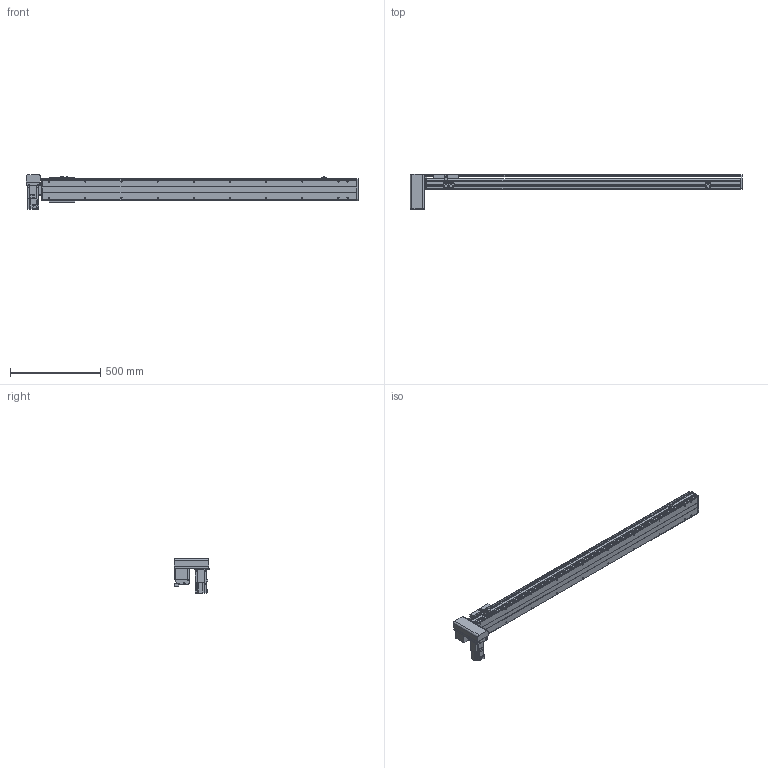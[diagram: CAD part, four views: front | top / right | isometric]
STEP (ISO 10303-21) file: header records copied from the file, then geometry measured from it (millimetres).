
FILE_DESCRIPTION( ( 'STEP AP214' ), '1' );
FILE_NAME( 'x:/temp/worker_27/temp/exporttempdir_6708_191_t5n9r/format_0/PBS120-P40-S1450-RD-T40-C1-N(0).stp', '2022-06-06T00:42:46', ( 'License CC BY-ND 4.0' ), ( 'CADENAS' ), ' ', 'PARTsolutions', ' ' );
FILE_SCHEMA( ( 'AUTOMOTIVE_DESIGN { 1 0 10303 214 1 1 1 1 }' ) );
Length unit declared in the file: millimetre
Products named in the file (7): PBS120-P40-S1450-RD-T40-C1-N(0); _PBS120-S1450()_body; _PBS120T-RD_motors; _T40-p1; _PBS120_sliser; _PBS120_plant; _PBS120_sensor
Assembly tree (8 placements, depth 2):
  PBS120-P40-S1450-RD-T40-C1-N(0)
    _PBS120-S1450()_body
    _PBS120T-RD_motors
    _T40-p1
    _PBS120_sliser
    _PBS120_plant
    _PBS120_sensor  x3
Bounding box: 1836 x 196 x 189.7 mm (x, y, z)
Volume: 7425813 mm3; surface area: 1487076.9 mm2
Topology: 8 solids, 8 shells, 840 faces, 2176 edges, 1399 vertices
Faces by surface type: plane 553, cylinder 233, cone 52, torus 2
Full cylindrical faces by diameter (mm): 2.459 x6, 3.242 x4, 4 x2, 4.134 x4, 4.5 x10, 4.917 x24, 5.5 x11, 6 x2, 6.6 x1, 7 x2, 8.5 x4, 9 x4, 12 x1, 14 x1, 30 x2, 40 x1, 50 x2
Entity records: 27660 total; most frequent: DIRECTION 3788, CARTESIAN_POINT 3713, ORIENTED_EDGE 3526, EDGE_CURVE 1763, AXIS2_PLACEMENT_3D 1280, LINE 1228, VECTOR 1228, VERTEX_POINT 1205
